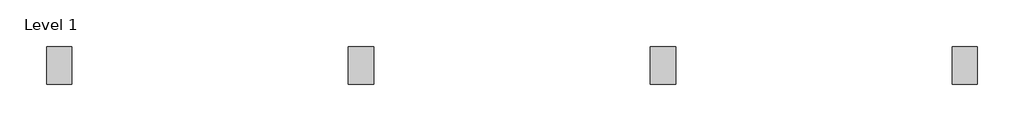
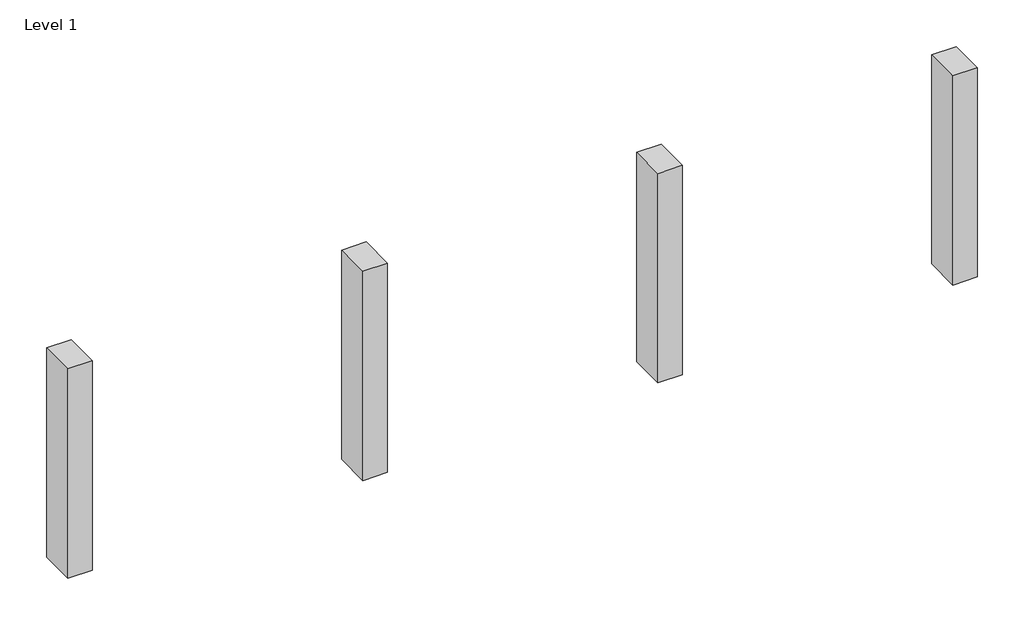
# One storey: 4 columns.
"""IFC4 building model written with IfcOpenShell, lengths in millimetres."""

from ifc_helpers import new_model, si_unit, origin, place, context, project, spatial, transform, mapped, element, save
from components import concrete_rectangular_column_12_x_18_d53c0298

model = new_model("IFC4")

# Units and contexts
model_context = context("Model", 3, world=origin())
ifc_project = project(units=[si_unit("LENGTHUNIT", "METRE", prefix="MILLI")], contexts=[model_context])

# Site, building, storey
site = spatial("IfcSite", under=ifc_project)
building = spatial("IfcBuilding", under=site)
storey = spatial("IfcBuildingStorey", under=building, Name="Level 1", Elevation=0.0)

# Columns
placement = place(None, origin())
concrete_rectangular_column_12_x_18_shape = concrete_rectangular_column_12_x_18_d53c0298(model_context)
element("IfcColumn", 1, ObjectType="Concrete-Rectangular-Column : 12 x 18", at=placement, inside=storey, context=model_context, shape_type="MappedRepresentation", body=[
    mapped(concrete_rectangular_column_12_x_18_shape, transform((-11367.7423607, 12497.6734534, 0.0), x_axis=(1.0, 0.0, 0.0), y_axis=(0.0, 1.0, 0.0), z_axis=(0.0, 0.0, 1.0))),
])
element("IfcColumn", 2, ObjectType="Concrete-Rectangular-Column : 12 x 18", at=placement, inside=storey, context=model_context, shape_type="MappedRepresentation", body=[
    mapped(concrete_rectangular_column_12_x_18_shape, transform((-7710.1423607, 12497.6734534, 0.0), x_axis=(1.0, 0.0, 0.0), y_axis=(0.0, 1.0, 0.0), z_axis=(0.0, 0.0, 1.0))),
])
element("IfcColumn", 3, ObjectType="Concrete-Rectangular-Column : 12 x 18", at=placement, inside=storey, context=model_context, shape_type="MappedRepresentation", body=[
    mapped(concrete_rectangular_column_12_x_18_shape, transform((-4052.5423607, 12497.6734534, 0.0), x_axis=(1.0, 0.0, 0.0), y_axis=(0.0, 1.0, 0.0), z_axis=(0.0, 0.0, 1.0))),
])
element("IfcColumn", 4, ObjectType="Concrete-Rectangular-Column : 12 x 18", at=placement, inside=storey, context=model_context, shape_type="MappedRepresentation", body=[
    mapped(concrete_rectangular_column_12_x_18_shape, transform((-394.9423607, 12497.6734534, 0.0), x_axis=(1.0, 0.0, 0.0), y_axis=(0.0, 1.0, 0.0), z_axis=(0.0, 0.0, 1.0))),
])

save(model, "model.ifc")
